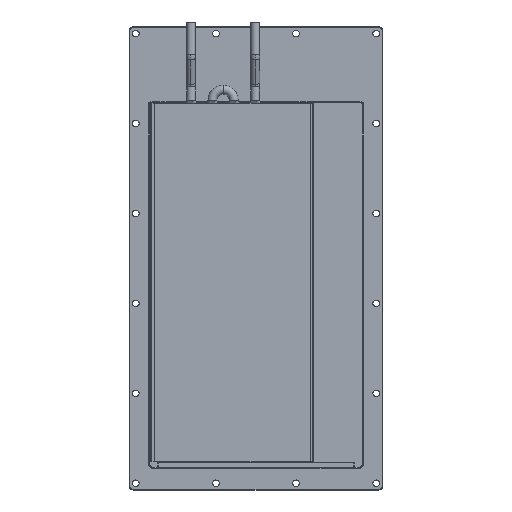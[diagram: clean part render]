
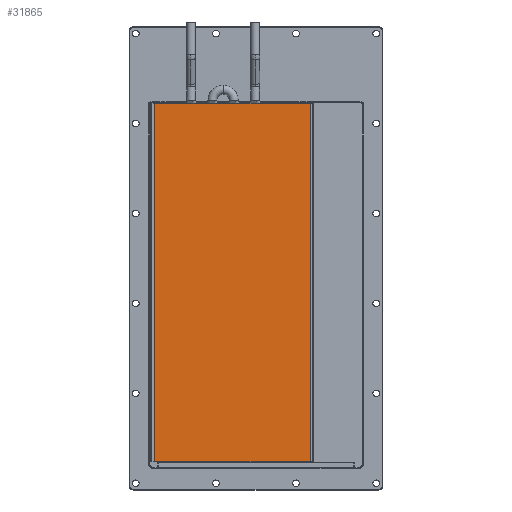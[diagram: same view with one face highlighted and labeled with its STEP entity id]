
A CAD part, front view. The second image highlights one B-rep face of the part: STEP entity #31865.
In plain terms, the highlighted planar face has unit normal (0, -1, 0).
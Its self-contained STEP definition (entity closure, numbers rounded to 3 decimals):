
#1106 = ORIENTED_EDGE ( 'NONE', *, *, #47119, .F. ) ;
#2479 = VECTOR ( 'NONE', #22462, 1000. ) ;
#3939 = CARTESIAN_POINT ( 'NONE',  ( 87.5, 1., 587.09 ) ) ;
#4951 = FACE_OUTER_BOUND ( 'NONE', #67871, .T. ) ;
#8544 = DIRECTION ( 'NONE',  ( 1., 0., 0. ) ) ;
#8839 = ORIENTED_EDGE ( 'NONE', *, *, #64456, .F. ) ;
#10921 = CARTESIAN_POINT ( 'NONE',  ( -87.5, 1., 403. ) ) ;
#16462 = VERTEX_POINT ( 'NONE', #28420 ) ;
#19807 = EDGE_CURVE ( 'NONE', #16462, #30912, #28719, .T. ) ;
#20581 = CARTESIAN_POINT ( 'NONE',  ( -87.5, 1., 587.09 ) ) ;
#22415 = VERTEX_POINT ( 'NONE', #99605 ) ;
#22462 = DIRECTION ( 'NONE',  ( -1., 0., 0. ) ) ;
#26572 = ORIENTED_EDGE ( 'NONE', *, *, #82998, .T. ) ;
#28420 = CARTESIAN_POINT ( 'NONE',  ( 87.5, 1., 403. ) ) ;
#28719 = LINE ( 'NONE', #3939, #87154 ) ;
#28810 = VECTOR ( 'NONE', #95990, 1000. ) ;
#30579 = CARTESIAN_POINT ( 'NONE',  ( -87.5, 1., 0. ) ) ;
#30615 = VECTOR ( 'NONE', #8544, 1000. ) ;
#30912 = VERTEX_POINT ( 'NONE', #62694 ) ;
#31865 = ADVANCED_FACE ( 'NONE', ( #4951 ), #38382, .T. ) ;
#34414 = LINE ( 'NONE', #99657, #30615 ) ;
#38382 = PLANE ( 'NONE',  #69105 ) ;
#46244 = LINE ( 'NONE', #30579, #2479 ) ;
#47119 = EDGE_CURVE ( 'NONE', #61757, #16462, #34414, .T. ) ;
#61757 = VERTEX_POINT ( 'NONE', #10921 ) ;
#62694 = CARTESIAN_POINT ( 'NONE',  ( 87.5, 1., 0. ) ) ;
#63109 = CARTESIAN_POINT ( 'NONE',  ( -87.5, 1., 587.09 ) ) ;
#64456 = EDGE_CURVE ( 'NONE', #30912, #22415, #46244, .T. ) ;
#67871 = EDGE_LOOP ( 'NONE', ( #1106, #26572, #8839, #102698 ) ) ;
#69105 = AXIS2_PLACEMENT_3D ( 'NONE', #20581, #77751, #94984 ) ;
#77751 = DIRECTION ( 'NONE',  ( 0., -1., 0. ) ) ;
#82998 = EDGE_CURVE ( 'NONE', #61757, #22415, #104103, .T. ) ;
#87154 = VECTOR ( 'NONE', #102581, 1000. ) ;
#94984 = DIRECTION ( 'NONE',  ( 1., 0., 0. ) ) ;
#95990 = DIRECTION ( 'NONE',  ( 0., 0., -1. ) ) ;
#99605 = CARTESIAN_POINT ( 'NONE',  ( -87.5, 1., 0. ) ) ;
#99657 = CARTESIAN_POINT ( 'NONE',  ( -87.5, 1., 403. ) ) ;
#102581 = DIRECTION ( 'NONE',  ( 0., 0., -1. ) ) ;
#102698 = ORIENTED_EDGE ( 'NONE', *, *, #19807, .F. ) ;
#104103 = LINE ( 'NONE', #63109, #28810 ) ;
